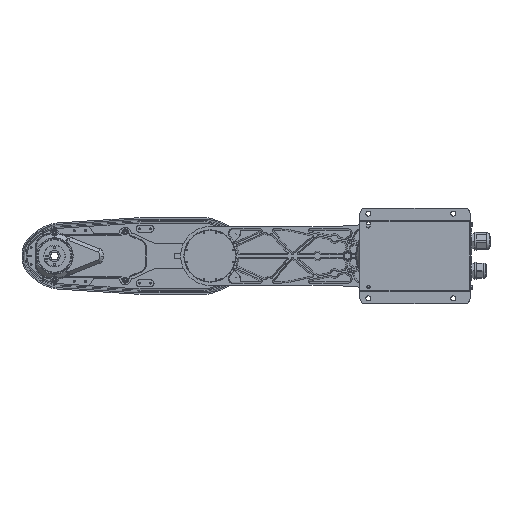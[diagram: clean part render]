
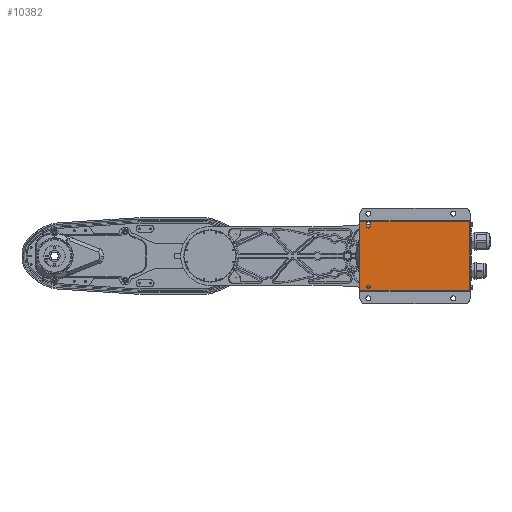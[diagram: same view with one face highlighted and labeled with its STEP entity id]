
A CAD part, front view. The second image highlights one B-rep face of the part: STEP entity #10382.
In plain terms, the highlighted planar face has unit normal (0, -1, 0).
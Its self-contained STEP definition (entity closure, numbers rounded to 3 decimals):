
#74 = DIRECTION ( 'NONE',  ( 0., 0., -1. ) ) ;
#2248 = ORIENTED_EDGE ( 'NONE', *, *, #20264, .F. ) ;
#2361 = DIRECTION ( 'NONE',  ( 0., 0., -1. ) ) ;
#2373 = AXIS2_PLACEMENT_3D ( 'NONE', #10262, #17221, #3377 ) ;
#2930 = FACE_OUTER_BOUND ( 'NONE', #62100, .T. ) ;
#3054 = DIRECTION ( 'NONE',  ( 0., 0., -1. ) ) ;
#3377 = DIRECTION ( 'NONE',  ( 1., 0., 0. ) ) ;
#4040 = CARTESIAN_POINT ( 'NONE',  ( 135., 1., 61.5 ) ) ;
#5158 = EDGE_CURVE ( 'NONE', #35758, #88719, #68564, .T. ) ;
#5199 = AXIS2_PLACEMENT_3D ( 'NONE', #17363, #45440, #59724 ) ;
#5356 = VERTEX_POINT ( 'NONE', #52363 ) ;
#5471 = CARTESIAN_POINT ( 'NONE',  ( -42., 1., 52.5 ) ) ;
#7021 = DIRECTION ( 'NONE',  ( 0., 1., 0. ) ) ;
#7460 = CARTESIAN_POINT ( 'NONE',  ( -45., 1., -55. ) ) ;
#7523 = EDGE_CURVE ( 'NONE', #54236, #82784, #43365, .T. ) ;
#8793 = VECTOR ( 'NONE', #90812, 1000. ) ;
#9725 = CARTESIAN_POINT ( 'NONE',  ( -45., 1., -58. ) ) ;
#10262 = CARTESIAN_POINT ( 'NONE',  ( 135., 1., 61.5 ) ) ;
#10382 = ADVANCED_FACE ( 'NONE', ( #2930, #80209, #31072 ), #24127, .F. ) ;
#12063 = EDGE_CURVE ( 'NONE', #31317, #54236, #49347, .T. ) ;
#12368 = CARTESIAN_POINT ( 'NONE',  ( 135., 1., -61.5 ) ) ;
#12443 = CARTESIAN_POINT ( 'NONE',  ( -60., 1., -61.5 ) ) ;
#14007 = CARTESIAN_POINT ( 'NONE',  ( 135., 1., -61.5 ) ) ;
#14280 = VECTOR ( 'NONE', #74, 1000. ) ;
#16158 = ORIENTED_EDGE ( 'NONE', *, *, #7523, .T. ) ;
#17221 = DIRECTION ( 'NONE',  ( 0., 1., 0. ) ) ;
#17363 = CARTESIAN_POINT ( 'NONE',  ( -45., 1., 57.5 ) ) ;
#17813 = VERTEX_POINT ( 'NONE', #32443 ) ;
#18248 = CARTESIAN_POINT ( 'NONE',  ( -45., 1., -55. ) ) ;
#18633 = CARTESIAN_POINT ( 'NONE',  ( -60., 1., -61.5 ) ) ;
#18860 = VERTEX_POINT ( 'NONE', #18633 ) ;
#19362 = DIRECTION ( 'NONE',  ( 0., 0., 1. ) ) ;
#20015 = ORIENTED_EDGE ( 'NONE', *, *, #71463, .F. ) ;
#20264 = EDGE_CURVE ( 'NONE', #17813, #18860, #75386, .T. ) ;
#20689 = ORIENTED_EDGE ( 'NONE', *, *, #44743, .T. ) ;
#20980 = DIRECTION ( 'NONE',  ( 0., 0., -1. ) ) ;
#24127 = PLANE ( 'NONE',  #2373 ) ;
#25984 = AXIS2_PLACEMENT_3D ( 'NONE', #42173, #78861, #20980 ) ;
#26591 = VERTEX_POINT ( 'NONE', #80164 ) ;
#28124 = ORIENTED_EDGE ( 'NONE', *, *, #5158, .F. ) ;
#31072 = FACE_BOUND ( 'NONE', #57219, .T. ) ;
#31317 = VERTEX_POINT ( 'NONE', #32357 ) ;
#31358 = CIRCLE ( 'NONE', #54912, 3. ) ;
#32357 = CARTESIAN_POINT ( 'NONE',  ( -48., 1., 57.5 ) ) ;
#32443 = CARTESIAN_POINT ( 'NONE',  ( 135., 1., -61.5 ) ) ;
#32824 = DIRECTION ( 'NONE',  ( 0., 0., 1. ) ) ;
#33018 = CIRCLE ( 'NONE', #56546, 3. ) ;
#33420 = CARTESIAN_POINT ( 'NONE',  ( -45., 1., -52. ) ) ;
#35758 = VERTEX_POINT ( 'NONE', #36365 ) ;
#36365 = CARTESIAN_POINT ( 'NONE',  ( -60., 1., 61.5 ) ) ;
#36793 = ORIENTED_EDGE ( 'NONE', *, *, #80940, .T. ) ;
#37397 = DIRECTION ( 'NONE',  ( 0., 1., 0. ) ) ;
#40487 = DIRECTION ( 'NONE',  ( -1., 0., 0. ) ) ;
#40611 = ORIENTED_EDGE ( 'NONE', *, *, #12063, .T. ) ;
#42173 = CARTESIAN_POINT ( 'NONE',  ( -45., 1., 52.5 ) ) ;
#43365 = LINE ( 'NONE', #69625, #14280 ) ;
#43797 = ORIENTED_EDGE ( 'NONE', *, *, #65671, .T. ) ;
#43897 = CIRCLE ( 'NONE', #70365, 3. ) ;
#44743 = EDGE_CURVE ( 'NONE', #5356, #31317, #47518, .T. ) ;
#45440 = DIRECTION ( 'NONE',  ( 0., 1., 0. ) ) ;
#46064 = CARTESIAN_POINT ( 'NONE',  ( -42., 1., 57.5 ) ) ;
#47076 = VERTEX_POINT ( 'NONE', #9725 ) ;
#47518 = LINE ( 'NONE', #62253, #68177 ) ;
#47567 = EDGE_LOOP ( 'NONE', ( #80417, #36793 ) ) ;
#49347 = CIRCLE ( 'NONE', #5199, 3. ) ;
#49490 = CIRCLE ( 'NONE', #25984, 3. ) ;
#50155 = VERTEX_POINT ( 'NONE', #33420 ) ;
#52363 = CARTESIAN_POINT ( 'NONE',  ( -48., 1., 52.5 ) ) ;
#54236 = VERTEX_POINT ( 'NONE', #46064 ) ;
#54780 = CARTESIAN_POINT ( 'NONE',  ( -60., 1., 61.5 ) ) ;
#54912 = AXIS2_PLACEMENT_3D ( 'NONE', #7460, #7021, #71484 ) ;
#55987 = VECTOR ( 'NONE', #40487, 1000. ) ;
#56546 = AXIS2_PLACEMENT_3D ( 'NONE', #18248, #60612, #3054 ) ;
#57219 = EDGE_LOOP ( 'NONE', ( #65242, #43797, #20689, #40611, #16158 ) ) ;
#58974 = CARTESIAN_POINT ( 'NONE',  ( -45., 1., 52.5 ) ) ;
#59724 = DIRECTION ( 'NONE',  ( -1., 0., 0. ) ) ;
#60612 = DIRECTION ( 'NONE',  ( 0., 1., 0. ) ) ;
#62100 = EDGE_LOOP ( 'NONE', ( #2248, #88599, #28124, #20015 ) ) ;
#62253 = CARTESIAN_POINT ( 'NONE',  ( -48., 1., 52.5 ) ) ;
#64137 = EDGE_CURVE ( 'NONE', #47076, #50155, #33018, .T. ) ;
#65242 = ORIENTED_EDGE ( 'NONE', *, *, #76689, .T. ) ;
#65671 = EDGE_CURVE ( 'NONE', #26591, #5356, #49490, .T. ) ;
#68177 = VECTOR ( 'NONE', #32824, 1000. ) ;
#68564 = LINE ( 'NONE', #54780, #75970 ) ;
#69111 = EDGE_CURVE ( 'NONE', #17813, #88719, #77034, .T. ) ;
#69625 = CARTESIAN_POINT ( 'NONE',  ( -42., 1., 57.5 ) ) ;
#70365 = AXIS2_PLACEMENT_3D ( 'NONE', #58974, #37397, #2361 ) ;
#70856 = VECTOR ( 'NONE', #19362, 1000. ) ;
#71463 = EDGE_CURVE ( 'NONE', #18860, #35758, #75467, .T. ) ;
#71484 = DIRECTION ( 'NONE',  ( 0., 0., 1. ) ) ;
#75386 = LINE ( 'NONE', #12368, #55987 ) ;
#75467 = LINE ( 'NONE', #12443, #70856 ) ;
#75970 = VECTOR ( 'NONE', #82746, 1000. ) ;
#76689 = EDGE_CURVE ( 'NONE', #82784, #26591, #43897, .T. ) ;
#77034 = LINE ( 'NONE', #14007, #8793 ) ;
#78861 = DIRECTION ( 'NONE',  ( 0., 1., 0. ) ) ;
#80164 = CARTESIAN_POINT ( 'NONE',  ( -45., 1., 49.5 ) ) ;
#80209 = FACE_BOUND ( 'NONE', #47567, .T. ) ;
#80417 = ORIENTED_EDGE ( 'NONE', *, *, #64137, .T. ) ;
#80940 = EDGE_CURVE ( 'NONE', #50155, #47076, #31358, .T. ) ;
#82746 = DIRECTION ( 'NONE',  ( 1., 0., 0. ) ) ;
#82784 = VERTEX_POINT ( 'NONE', #5471 ) ;
#88599 = ORIENTED_EDGE ( 'NONE', *, *, #69111, .T. ) ;
#88719 = VERTEX_POINT ( 'NONE', #4040 ) ;
#90812 = DIRECTION ( 'NONE',  ( 0., 0., 1. ) ) ;
